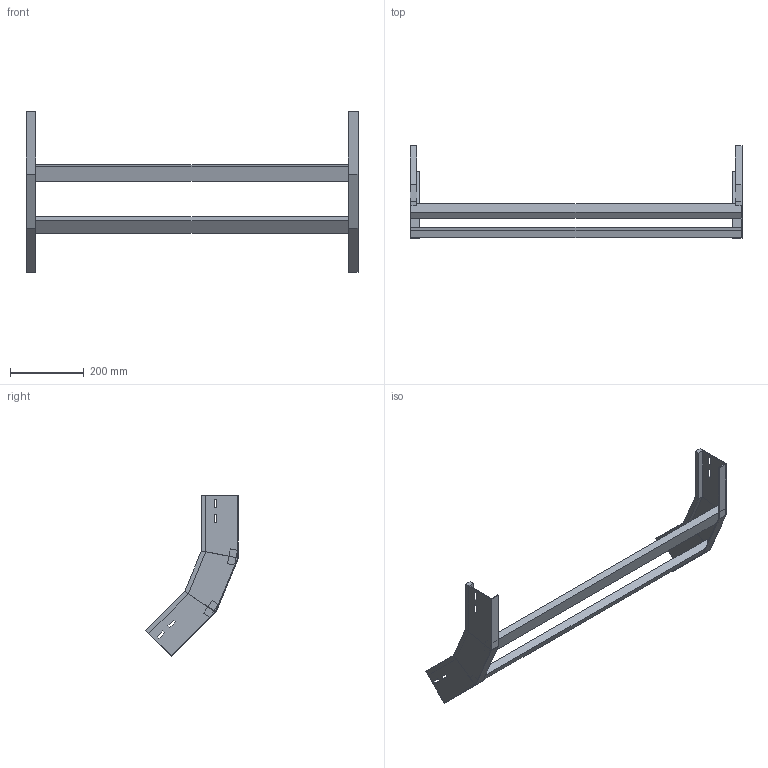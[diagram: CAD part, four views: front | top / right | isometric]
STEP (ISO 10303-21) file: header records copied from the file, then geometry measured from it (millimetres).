
FILE_DESCRIPTION (( 'STEP AP214' ), '1' );
FILE_NAME ('A2X31B3D900XX.step', '2025-03-20T10:04:16', ( '' ), ( '' ), 'SwSTEP 2.0', 'SolidWorks 2023', '' );
FILE_SCHEMA (( 'AUTOMOTIVE_DESIGN' ));
Length unit declared in the file: millimetre
Products named in the file (3): TRAVERSINO_900; LONGH.SALITA_45°_H100_R300; A2X31B3D900XX
Assembly tree (4 placements, depth 2):
  A2X31B3D900XX
    LONGH.SALITA_45°_H100_R300  x2
    TRAVERSINO_900  x2
Bounding box: 900 x 251.29 x 435.96 mm (x, y, z)
Volume: 1844310.5 mm3; surface area: 483891 mm2
Topology: 4 solids, 4 shells, 96 faces, 232 edges, 144 vertices
Faces by surface type: plane 96
Entity records: 1472 total; most frequent: CARTESIAN_POINT 243, ORIENTED_EDGE 232, DIRECTION 226, EDGE_CURVE 116, LINE 116, VECTOR 116, VERTEX_POINT 72, EDGE_LOOP 56
